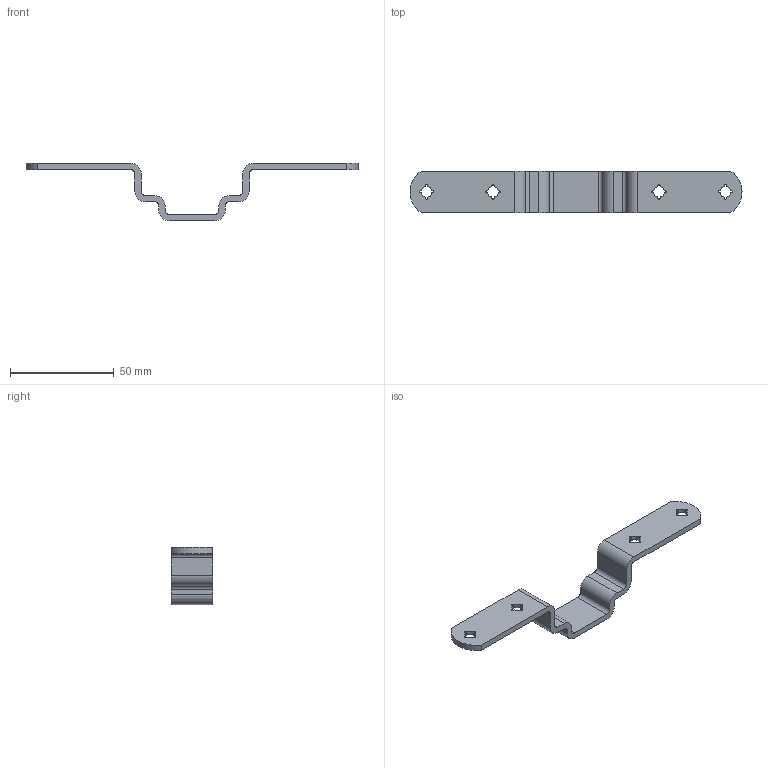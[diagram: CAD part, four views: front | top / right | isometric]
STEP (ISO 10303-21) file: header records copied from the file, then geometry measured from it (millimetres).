
FILE_DESCRIPTION((''),'2;1');
FILE_NAME('FZ-4-17535-004350-00','2014-11-24T',('1ke04'),('Kesseboehmer'),'PRO/ENGINEER BY PARAMETRIC TECHNOLOGY CORPORATION, 2014090','PRO/ENGINEER BY PARAMETRIC TECHNOLOGY CORPORATION, 2014090','');
FILE_SCHEMA(('AUTOMOTIVE_DESIGN { 1 0 10303 214 1 1 1 1 }'));
Length unit declared in the file: millimetre
Products named in the file (1): FZ-4-17535-004350-00
Bounding box: 160 x 20 x 27.6 mm (x, y, z)
Volume: 11283.8 mm3; surface area: 9031.2 mm2
Topology: 1 solids, 1 shells, 110 faces, 324 edges, 216 vertices
Faces by surface type: plane 52, cylinder 50, cone 8
Entity records: 4214 total; most frequent: CARTESIAN_POINT 948, ORIENTED_EDGE 648, DIRECTION 580, EDGE_CURVE 324, VERTEX_POINT 216, AXIS2_PLACEMENT_3D 202, COLOUR_RGB 192, VECTOR 176
